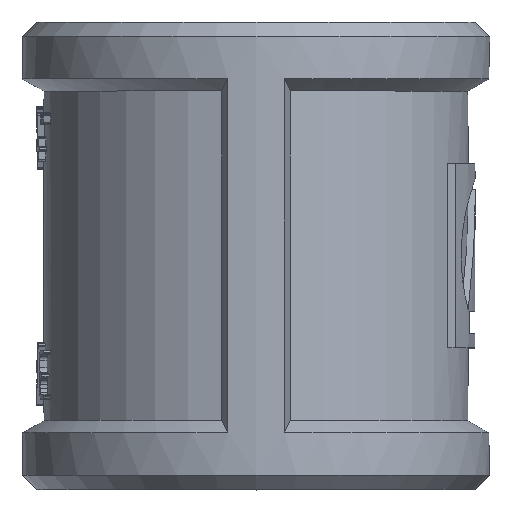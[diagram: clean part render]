
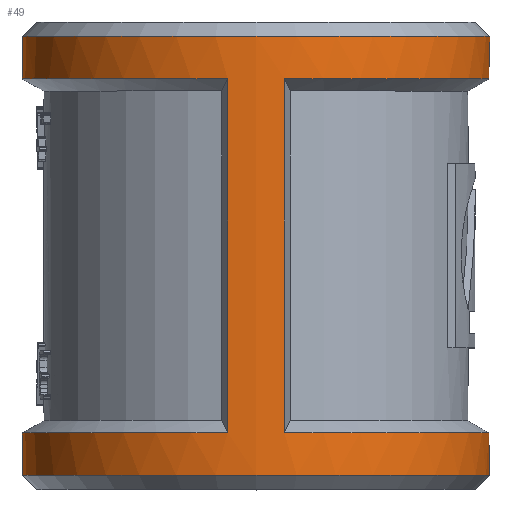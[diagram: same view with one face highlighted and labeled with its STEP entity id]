
A CAD part, top view. The second image highlights one B-rep face of the part: STEP entity #49.
In plain terms, the highlighted cylindrical face has radius 16.5 mm (diameter 33 mm), a full revolution.
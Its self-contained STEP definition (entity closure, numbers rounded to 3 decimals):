
#49=ADVANCED_FACE('',(#343,#345,#347,#349),#351,.T.);
#343=FACE_BOUND('',#344,.T.);
#344=EDGE_LOOP('',(#1994,#1995,#1996,#1997,#1998,#1999));
#345=FACE_OUTER_BOUND('',#346,.T.);
#346=EDGE_LOOP('',(#2000));
#347=FACE_OUTER_BOUND('',#348,.T.);
#348=EDGE_LOOP('',(#2001));
#349=FACE_BOUND('',#350,.T.);
#350=EDGE_LOOP('',(#2002,#2003,#2004,#2005));
#351=CYLINDRICAL_SURFACE('',#352,16.5);
#352=AXIS2_PLACEMENT_3D('',#353,#354,#355);
#353=CARTESIAN_POINT('',(0.,-12.5,0.));
#354=DIRECTION('',(0.,1.,0.));
#355=DIRECTION('',(-1.,0.,0.));
#1994=ORIENTED_EDGE('',*,*,#3812,.F.);
#1995=ORIENTED_EDGE('',*,*,#3813,.F.);
#1996=ORIENTED_EDGE('',*,*,#3814,.F.);
#1997=ORIENTED_EDGE('',*,*,#3815,.T.);
#1998=ORIENTED_EDGE('',*,*,#3816,.F.);
#1999=ORIENTED_EDGE('',*,*,#3817,.F.);
#2000=ORIENTED_EDGE('',*,*,#3810,.F.);
#2001=ORIENTED_EDGE('',*,*,#3811,.T.);
#2002=ORIENTED_EDGE('',*,*,#3818,.F.);
#2003=ORIENTED_EDGE('',*,*,#3819,.T.);
#2004=ORIENTED_EDGE('',*,*,#3820,.F.);
#2005=ORIENTED_EDGE('',*,*,#3821,.F.);
#3810=EDGE_CURVE('',#4519,#4519,#4520,.T.);
#3811=EDGE_CURVE('',#4521,#4521,#4522,.T.);
#3812=EDGE_CURVE('',#4523,#4524,#4525,.T.);
#3813=EDGE_CURVE('',#4526,#4523,#4527,.T.);
#3814=EDGE_CURVE('',#4528,#4526,#4529,.T.);
#3815=EDGE_CURVE('',#4528,#4530,#4531,.T.);
#3816=EDGE_CURVE('',#4532,#4530,#4533,.F.);
#3817=EDGE_CURVE('',#4524,#4532,#4534,.F.);
#3818=EDGE_CURVE('',#4535,#4536,#4537,.T.);
#3819=EDGE_CURVE('',#4535,#4538,#4539,.T.);
#3820=EDGE_CURVE('',#4540,#4538,#4541,.F.);
#3821=EDGE_CURVE('',#4536,#4540,#4542,.T.);
#4519=VERTEX_POINT('',#5712);
#4520=CIRCLE('',#5713,16.5);
#4521=VERTEX_POINT('',#5717);
#4522=CIRCLE('',#5718,16.5);
#4523=VERTEX_POINT('',#5722);
#4524=VERTEX_POINT('',#5723);
#4525=LINE('',#5724,#5725);
#4526=VERTEX_POINT('',#5727);
#4527=CIRCLE('',#5728,16.5);
#4528=VERTEX_POINT('',#5732);
#4529=CIRCLE('',#5733,16.5);
#4530=VERTEX_POINT('',#5737);
#4531=LINE('',#5738,#5739);
#4532=VERTEX_POINT('',#5741);
#4533=CIRCLE('',#5742,16.5);
#4534=CIRCLE('',#5746,16.5);
#4535=VERTEX_POINT('',#5750);
#4536=VERTEX_POINT('',#5751);
#4537=CIRCLE('',#5752,16.5);
#4538=VERTEX_POINT('',#5756);
#4539=LINE('',#5757,#5758);
#4540=VERTEX_POINT('',#5760);
#4541=CIRCLE('',#5761,16.5);
#4542=LINE('',#5765,#5766);
#5712=CARTESIAN_POINT('',(-16.5,15.5,0.));
#5713=AXIS2_PLACEMENT_3D('',#5714,#5715,#5716);
#5714=CARTESIAN_POINT('',(0.,15.5,0.));
#5715=DIRECTION('',(0.,1.,0.));
#5716=DIRECTION('',(-1.,0.,0.));
#5717=CARTESIAN_POINT('',(-16.5,-15.5,0.));
#5718=AXIS2_PLACEMENT_3D('',#5719,#5720,#5721);
#5719=CARTESIAN_POINT('',(0.,-15.5,0.));
#5720=DIRECTION('',(0.,1.,0.));
#5721=DIRECTION('',(-1.,0.,0.));
#5722=CARTESIAN_POINT('',(-2.,-12.5,16.378));
#5723=CARTESIAN_POINT('',(-2.,12.5,16.378));
#5724=CARTESIAN_POINT('',(-2.,-12.5,16.378));
#5725=VECTOR('',#5726,1.);
#5726=DIRECTION('',(0.,1.,0.));
#5727=CARTESIAN_POINT('',(-16.5,-12.5,0.));
#5728=AXIS2_PLACEMENT_3D('',#5729,#5730,#5731);
#5729=CARTESIAN_POINT('',(0.,-12.5,0.));
#5730=DIRECTION('',(0.,1.,0.));
#5731=DIRECTION('',(-1.,0.,0.));
#5732=CARTESIAN_POINT('',(-2.,-12.5,-16.378));
#5733=AXIS2_PLACEMENT_3D('',#5734,#5735,#5736);
#5734=CARTESIAN_POINT('',(0.,-12.5,0.));
#5735=DIRECTION('',(0.,1.,0.));
#5736=DIRECTION('',(-0.121,0.,-0.993));
#5737=CARTESIAN_POINT('',(-2.,12.5,-16.378));
#5738=CARTESIAN_POINT('',(-2.,-12.5,-16.378));
#5739=VECTOR('',#5740,1.);
#5740=DIRECTION('',(0.,1.,0.));
#5741=CARTESIAN_POINT('',(-16.5,12.5,0.));
#5742=AXIS2_PLACEMENT_3D('',#5743,#5744,#5745);
#5743=CARTESIAN_POINT('',(0.,12.5,0.));
#5744=DIRECTION('',(0.,1.,0.));
#5745=DIRECTION('',(-0.121,0.,-0.993));
#5746=AXIS2_PLACEMENT_3D('',#5747,#5748,#5749);
#5747=CARTESIAN_POINT('',(0.,12.5,0.));
#5748=DIRECTION('',(0.,1.,0.));
#5749=DIRECTION('',(-1.,0.,0.));
#5750=CARTESIAN_POINT('',(2.,-12.5,16.378));
#5751=CARTESIAN_POINT('',(2.,-12.5,-16.378));
#5752=AXIS2_PLACEMENT_3D('',#5753,#5754,#5755);
#5753=CARTESIAN_POINT('',(0.,-12.5,0.));
#5754=DIRECTION('',(0.,1.,0.));
#5755=DIRECTION('',(0.121,0.,0.993));
#5756=CARTESIAN_POINT('',(2.,12.5,16.378));
#5757=CARTESIAN_POINT('',(2.,-12.5,16.378));
#5758=VECTOR('',#5759,1.);
#5759=DIRECTION('',(0.,1.,0.));
#5760=CARTESIAN_POINT('',(2.,12.5,-16.378));
#5761=AXIS2_PLACEMENT_3D('',#5762,#5763,#5764);
#5762=CARTESIAN_POINT('',(0.,12.5,0.));
#5763=DIRECTION('',(0.,1.,0.));
#5764=DIRECTION('',(0.121,0.,0.993));
#5765=CARTESIAN_POINT('',(2.,-12.5,-16.378));
#5766=VECTOR('',#5767,1.);
#5767=DIRECTION('',(0.,1.,0.));
